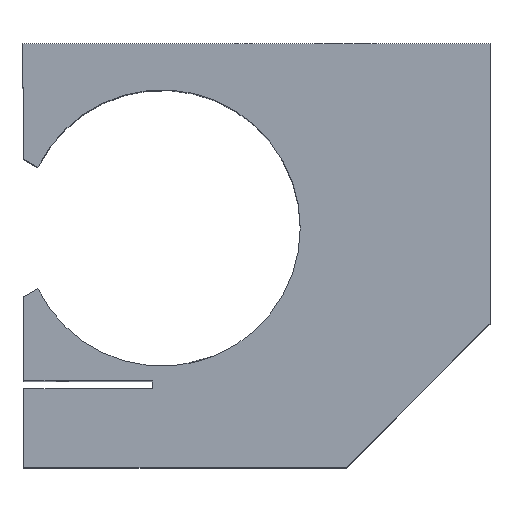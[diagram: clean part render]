
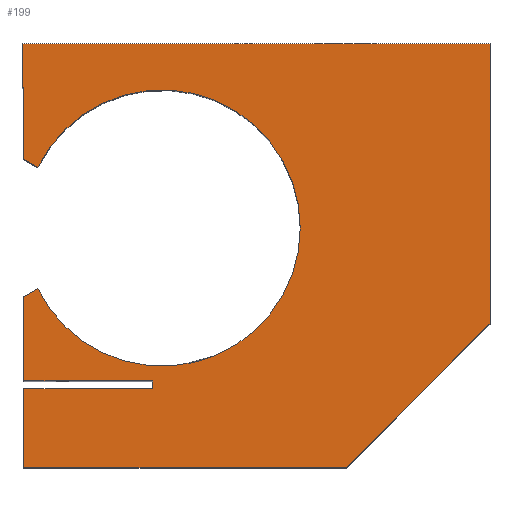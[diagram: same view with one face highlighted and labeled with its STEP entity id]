
A CAD part, top view. The second image highlights one B-rep face of the part: STEP entity #199.
In plain terms, the highlighted planar face has unit normal (0, 0, 1).
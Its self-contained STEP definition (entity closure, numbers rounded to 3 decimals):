
#8 = DIRECTION ( 'NONE',  ( -1., 0., 0. ) ) ;
#29 = VERTEX_POINT ( 'NONE', #947 ) ;
#30 = ORIENTED_EDGE ( 'NONE', *, *, #1032, .F. ) ;
#67 = ORIENTED_EDGE ( 'NONE', *, *, #606, .T. ) ;
#71 = CARTESIAN_POINT ( 'NONE',  ( -25.5, 7.5, 56.5 ) ) ;
#87 = CARTESIAN_POINT ( 'NONE',  ( 12., 7.5, 56.5 ) ) ;
#119 = CARTESIAN_POINT ( 'NONE',  ( 63.5, 57.5, 56.5 ) ) ;
#122 = CARTESIAN_POINT ( 'NONE',  ( 63.5, 57.5, 56.5 ) ) ;
#126 = CARTESIAN_POINT ( 'NONE',  ( -63.5, -57.5, 56.5 ) ) ;
#135 = EDGE_CURVE ( 'NONE', #1466, #1574, #1124, .T. ) ;
#144 = CARTESIAN_POINT ( 'NONE',  ( -59.175, -9., 56.5 ) ) ;
#184 = VERTEX_POINT ( 'NONE', #87 ) ;
#199 = ADVANCED_FACE ( 'NONE', ( #1634 ), #617, .T. ) ;
#239 = DIRECTION ( 'NONE',  ( 0., 0., 1. ) ) ;
#249 = VERTEX_POINT ( 'NONE', #144 ) ;
#262 = AXIS2_PLACEMENT_3D ( 'NONE', #609, #239, #634 ) ;
#268 = CARTESIAN_POINT ( 'NONE',  ( -63., 45.5, 56.5 ) ) ;
#283 = ORIENTED_EDGE ( 'NONE', *, *, #524, .F. ) ;
#298 = VECTOR ( 'NONE', #1018, 1000. ) ;
#302 = VERTEX_POINT ( 'NONE', #749 ) ;
#305 = DIRECTION ( 'NONE',  ( 0.707, 0.707, 0. ) ) ;
#329 = CARTESIAN_POINT ( 'NONE',  ( -63.5, 57.5, 56.5 ) ) ;
#332 = VECTOR ( 'NONE', #1386, 1000. ) ;
#338 = LINE ( 'NONE', #329, #1141 ) ;
#364 = DIRECTION ( 'NONE',  ( -1., 0., 0. ) ) ;
#378 = VERTEX_POINT ( 'NONE', #1160 ) ;
#379 = LINE ( 'NONE', #1539, #810 ) ;
#384 = CARTESIAN_POINT ( 'NONE',  ( -63., 45.5, 56.5 ) ) ;
#395 = VECTOR ( 'NONE', #1605, 1000. ) ;
#405 = CARTESIAN_POINT ( 'NONE',  ( -63.5, 45.5, 56.5 ) ) ;
#412 = ORIENTED_EDGE ( 'NONE', *, *, #1175, .F. ) ;
#436 = VECTOR ( 'NONE', #305, 1000. ) ;
#449 = DIRECTION ( 'NONE',  ( -0.866, 0.5, 0. ) ) ;
#451 = EDGE_CURVE ( 'NONE', #805, #1044, #1344, .T. ) ;
#476 = ORIENTED_EDGE ( 'NONE', *, *, #1343, .F. ) ;
#499 = CARTESIAN_POINT ( 'NONE',  ( -63., 45.5, 56.5 ) ) ;
#524 = EDGE_CURVE ( 'NONE', #249, #184, #1360, .T. ) ;
#528 = ORIENTED_EDGE ( 'NONE', *, *, #1004, .F. ) ;
#535 = VECTOR ( 'NONE', #626, 1000. ) ;
#596 = EDGE_CURVE ( 'NONE', #1044, #249, #1512, .T. ) ;
#597 = DIRECTION ( 'NONE',  ( -1., 0., 0. ) ) ;
#600 = EDGE_CURVE ( 'NONE', #378, #1466, #1385, .T. ) ;
#601 = CARTESIAN_POINT ( 'NONE',  ( -59.175, 24., 56.5 ) ) ;
#604 = DIRECTION ( 'NONE',  ( 0., 0., 1. ) ) ;
#606 = EDGE_CURVE ( 'NONE', #1060, #1230, #995, .T. ) ;
#609 = CARTESIAN_POINT ( 'NONE',  ( 0., 0., 56.5 ) ) ;
#617 = PLANE ( 'NONE',  #262 ) ;
#626 = DIRECTION ( 'NONE',  ( -1., 0., 0. ) ) ;
#634 = DIRECTION ( 'NONE',  ( 1., 0., 0. ) ) ;
#653 = CARTESIAN_POINT ( 'NONE',  ( -63., -57.5, 56.5 ) ) ;
#654 = ORIENTED_EDGE ( 'NONE', *, *, #1654, .F. ) ;
#663 = LINE ( 'NONE', #877, #1053 ) ;
#687 = ORIENTED_EDGE ( 'NONE', *, *, #1612, .T. ) ;
#700 = EDGE_CURVE ( 'NONE', #29, #962, #1533, .T. ) ;
#705 = CARTESIAN_POINT ( 'NONE',  ( -63., 45.5, 56.5 ) ) ;
#712 = ORIENTED_EDGE ( 'NONE', *, *, #870, .T. ) ;
#738 = DIRECTION ( 'NONE',  ( 0., 1., 0. ) ) ;
#749 = CARTESIAN_POINT ( 'NONE',  ( 24.5, -57.5, 56.5 ) ) ;
#766 = AXIS2_PLACEMENT_3D ( 'NONE', #71, #604, #1111 ) ;
#784 = CARTESIAN_POINT ( 'NONE',  ( -63., -11.208, 56.5 ) ) ;
#801 = DIRECTION ( 'NONE',  ( 1., 0., 0. ) ) ;
#802 = CIRCLE ( 'NONE', #1586, 37.5 ) ;
#803 = CARTESIAN_POINT ( 'NONE',  ( -63., -34., 56.5 ) ) ;
#805 = VERTEX_POINT ( 'NONE', #803 ) ;
#810 = VECTOR ( 'NONE', #896, 1000. ) ;
#839 = VERTEX_POINT ( 'NONE', #866 ) ;
#848 = LINE ( 'NONE', #601, #1453 ) ;
#866 = CARTESIAN_POINT ( 'NONE',  ( -28., -34., 56.5 ) ) ;
#870 = EDGE_CURVE ( 'NONE', #1574, #1599, #338, .T. ) ;
#875 = VECTOR ( 'NONE', #1394, 1000. ) ;
#876 = ORIENTED_EDGE ( 'NONE', *, *, #451, .F. ) ;
#877 = CARTESIAN_POINT ( 'NONE',  ( -28., -34., 56.5 ) ) ;
#879 = CARTESIAN_POINT ( 'NONE',  ( -63.5, -11.497, 56.5 ) ) ;
#896 = DIRECTION ( 'NONE',  ( 0., 1., 0. ) ) ;
#914 = LINE ( 'NONE', #1177, #436 ) ;
#947 = CARTESIAN_POINT ( 'NONE',  ( -63., 26.208, 56.5 ) ) ;
#962 = VERTEX_POINT ( 'NONE', #268 ) ;
#995 = LINE ( 'NONE', #1505, #1415 ) ;
#1004 = EDGE_CURVE ( 'NONE', #839, #805, #663, .T. ) ;
#1018 = DIRECTION ( 'NONE',  ( 0., 1., 0. ) ) ;
#1027 = VECTOR ( 'NONE', #738, 1000. ) ;
#1032 = EDGE_CURVE ( 'NONE', #1060, #839, #379, .T. ) ;
#1044 = VERTEX_POINT ( 'NONE', #784 ) ;
#1046 = CARTESIAN_POINT ( 'NONE',  ( -25.5, 7.5, 56.5 ) ) ;
#1053 = VECTOR ( 'NONE', #8, 1000. ) ;
#1060 = VERTEX_POINT ( 'NONE', #1069 ) ;
#1066 = ORIENTED_EDGE ( 'NONE', *, *, #700, .F. ) ;
#1069 = CARTESIAN_POINT ( 'NONE',  ( -28., -36.15, 56.5 ) ) ;
#1083 = CARTESIAN_POINT ( 'NONE',  ( -63., -36.15, 56.5 ) ) ;
#1111 = DIRECTION ( 'NONE',  ( 1., 0., 0. ) ) ;
#1115 = CARTESIAN_POINT ( 'NONE',  ( -63.5, 57.5, 56.5 ) ) ;
#1124 = LINE ( 'NONE', #1115, #535 ) ;
#1141 = VECTOR ( 'NONE', #1373, 1000. ) ;
#1151 = DIRECTION ( 'NONE',  ( 1., 0., 0. ) ) ;
#1160 = CARTESIAN_POINT ( 'NONE',  ( 63.5, -18.5, 56.5 ) ) ;
#1175 = EDGE_CURVE ( 'NONE', #1635, #29, #848, .T. ) ;
#1177 = CARTESIAN_POINT ( 'NONE',  ( 41., -41., 56.5 ) ) ;
#1211 = VECTOR ( 'NONE', #597, 1000. ) ;
#1217 = LINE ( 'NONE', #705, #1211 ) ;
#1230 = VERTEX_POINT ( 'NONE', #1083 ) ;
#1274 = LINE ( 'NONE', #126, #1580 ) ;
#1298 = EDGE_LOOP ( 'NONE', ( #654, #1066, #412, #1354, #283, #1436, #876, #528, #30, #67, #476, #1582, #687, #1484, #1584, #712 ) ) ;
#1343 = EDGE_CURVE ( 'NONE', #1381, #1230, #1397, .T. ) ;
#1344 = LINE ( 'NONE', #1619, #395 ) ;
#1354 = ORIENTED_EDGE ( 'NONE', *, *, #1632, .F. ) ;
#1360 = CIRCLE ( 'NONE', #766, 37.5 ) ;
#1373 = DIRECTION ( 'NONE',  ( 0., -1., 0. ) ) ;
#1381 = VERTEX_POINT ( 'NONE', #653 ) ;
#1385 = LINE ( 'NONE', #122, #1027 ) ;
#1386 = DIRECTION ( 'NONE',  ( 0., 1., 0. ) ) ;
#1394 = DIRECTION ( 'NONE',  ( 0.866, 0.5, 0. ) ) ;
#1397 = LINE ( 'NONE', #499, #298 ) ;
#1415 = VECTOR ( 'NONE', #364, 1000. ) ;
#1420 = EDGE_CURVE ( 'NONE', #1381, #302, #1274, .T. ) ;
#1431 = DIRECTION ( 'NONE',  ( 0., 0., 1. ) ) ;
#1436 = ORIENTED_EDGE ( 'NONE', *, *, #596, .F. ) ;
#1453 = VECTOR ( 'NONE', #449, 1000. ) ;
#1466 = VERTEX_POINT ( 'NONE', #119 ) ;
#1484 = ORIENTED_EDGE ( 'NONE', *, *, #600, .T. ) ;
#1505 = CARTESIAN_POINT ( 'NONE',  ( -28., -36.15, 56.5 ) ) ;
#1512 = LINE ( 'NONE', #879, #875 ) ;
#1533 = LINE ( 'NONE', #384, #332 ) ;
#1539 = CARTESIAN_POINT ( 'NONE',  ( -28., -34., 56.5 ) ) ;
#1560 = CARTESIAN_POINT ( 'NONE',  ( -59.175, 24., 56.5 ) ) ;
#1574 = VERTEX_POINT ( 'NONE', #1578 ) ;
#1578 = CARTESIAN_POINT ( 'NONE',  ( -63.5, 57.5, 56.5 ) ) ;
#1580 = VECTOR ( 'NONE', #1151, 1000. ) ;
#1582 = ORIENTED_EDGE ( 'NONE', *, *, #1420, .T. ) ;
#1584 = ORIENTED_EDGE ( 'NONE', *, *, #135, .T. ) ;
#1586 = AXIS2_PLACEMENT_3D ( 'NONE', #1046, #1431, #801 ) ;
#1599 = VERTEX_POINT ( 'NONE', #405 ) ;
#1605 = DIRECTION ( 'NONE',  ( 0., 1., 0. ) ) ;
#1612 = EDGE_CURVE ( 'NONE', #302, #378, #914, .T. ) ;
#1619 = CARTESIAN_POINT ( 'NONE',  ( -63., 45.5, 56.5 ) ) ;
#1632 = EDGE_CURVE ( 'NONE', #184, #1635, #802, .T. ) ;
#1634 = FACE_OUTER_BOUND ( 'NONE', #1298, .T. ) ;
#1635 = VERTEX_POINT ( 'NONE', #1560 ) ;
#1654 = EDGE_CURVE ( 'NONE', #962, #1599, #1217, .T. ) ;
